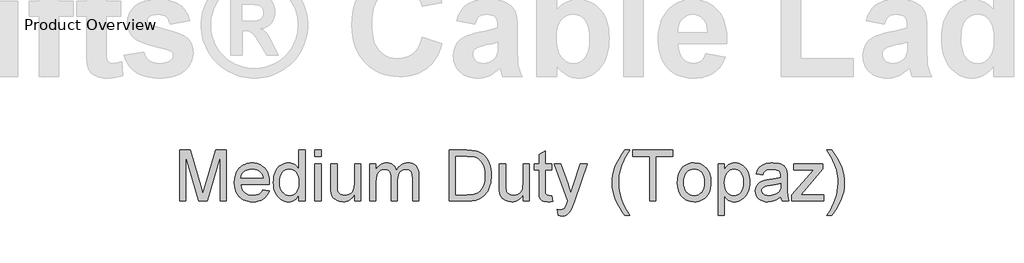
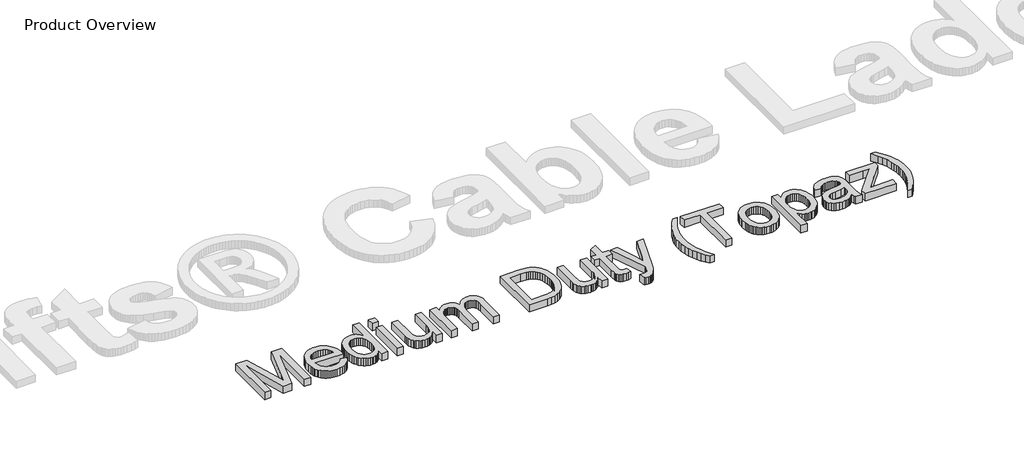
# One storey, part 11 of 12: 1 proxy.
"""IFC4 building model written with IfcOpenShell, lengths in millimetres."""

import ifcopenshell
import ifcopenshell.guid

model = None  # the IFC model being written
_history = None  # IfcOwnerHistory: only IFC2X3 demands one
_inside = {}  # id of a spatial element -> (the spatial element, [elements in it])
_under = {}  # id of a project, library or spatial element -> (it, [spatial elements below it])
_declared = {}  # id of a project -> (the project, [libraries it declares])
_typed = {}  # id of a type object -> (the type object, [elements of that type])
_made_of = {}  # id of a material, layer set ... -> (it, [elements and type objects made of it])


def new_model(schema):
    """Start an empty IFC model of exactly this schema.

    Asked for "IFC4X3", IfcOpenShell would pick the latest addendum, in which some entities
    have other attributes; the version numbers below select the first issue.
    IFC2X3 requires an IfcOwnerHistory on every rooted entity: one is made here for all.
    """
    global model, _history
    if schema == "IFC4X3":
        model = ifcopenshell.file(schema_version=(4, 3, 0, 0))
    else:
        model = ifcopenshell.file(schema=schema)
    _inside.clear()
    _under.clear()
    _declared.clear()
    _typed.clear()
    _made_of.clear()
    _history = None
    if model.schema == "IFC2X3":
        org = make("IfcOrganization", Name="unknown")
        user = make(
            "IfcPersonAndOrganization",
            ThePerson=make("IfcPerson", FamilyName="unknown"),
            TheOrganization=org,
        )
        app = make(
            "IfcApplication",
            ApplicationDeveloper=org,
            Version="unknown",
            ApplicationFullName="unknown",
            ApplicationIdentifier="unknown",
        )
        _history = make(
            "IfcOwnerHistory",
            OwningUser=user,
            OwningApplication=app,
            ChangeAction="ADDED",
            CreationDate=0,
        )
    return model


def make(cls, **values):
    """One entity of the class cls with the attributes given. An attribute that is None is left unset."""
    return model.create_entity(
        cls, **{name: value for name, value in values.items() if value is not None}
    )


def rooted(cls, **values):
    """An entity with a GlobalId (a new one), such as an element, a storey or a relation."""
    return make(cls, GlobalId=ifcopenshell.guid.new(), OwnerHistory=_history, **values)


def si_unit(unit_type, name, prefix=None):
    """IfcSIUnit, for example si_unit("LENGTHUNIT", "METRE", prefix="MILLI")."""
    return make("IfcSIUnit", UnitType=unit_type, Prefix=prefix, Name=name)


def assignment(units):
    """IfcUnitAssignment: the units of a project."""
    return None if units is None else make("IfcUnitAssignment", Units=units)


def point(xyz):
    """IfcCartesianPoint."""
    return None if xyz is None else make("IfcCartesianPoint", Coordinates=xyz)


def direction(xyz):
    """IfcDirection."""
    return None if xyz is None else make("IfcDirection", DirectionRatios=xyz)


def frame(location, z_axis=None, x_axis=None):
    """IfcAxis2Placement3D, a coordinate frame: its origin and axes. An axis left out is left unset."""
    return make(
        "IfcAxis2Placement3D",
        Location=point(location),
        Axis=direction(z_axis),
        RefDirection=direction(x_axis),
    )


def origin():
    """The frame at (0, 0, 0) with its axes left unset."""
    return frame((0.0, 0.0, 0.0))


def origin_with_axes():
    """The frame at (0, 0, 0) with the z axis (0, 0, 1) and the x axis (1, 0, 0) written out."""
    return frame((0.0, 0.0, 0.0), z_axis=(0.0, 0.0, 1.0), x_axis=(1.0, 0.0, 0.0))


def place(relative_to, where):
    """IfcLocalPlacement: puts the frame where relative to a parent placement (None: the world)."""
    return make(
        "IfcLocalPlacement", PlacementRelTo=relative_to, RelativePlacement=where
    )


def context(
    kind, dimensions, precision=None, world=None, true_north=None, identifier=None
):
    """IfcGeometricRepresentationContext, for example the 3D "Model" context."""
    return make(
        "IfcGeometricRepresentationContext",
        ContextIdentifier=identifier,
        ContextType=kind,
        CoordinateSpaceDimension=dimensions,
        Precision=precision,
        WorldCoordinateSystem=world,
        TrueNorth=true_north,
    )


def project(units=None, contexts=None):
    """IfcProject with its units and contexts."""
    return rooted(
        "IfcProject",
        Name="project",
        RepresentationContexts=contexts,
        UnitsInContext=assignment(units),
    )


def spatial(cls, under=None, at=None, **own):
    """A site, building, storey or space (cls), placed at a placement, below another one or the project."""
    s = rooted(cls, ObjectPlacement=at, **own)
    if under is not None:
        _under.setdefault(under.id(), (under, []))[1].append(s)
    return s


def polyline(points):
    """IfcPolyline through the points."""
    return make("IfcPolyline", Points=[point(p) for p in points])


def outline(outer, holes=None, kind="AREA"):
    """IfcArbitraryClosedProfileDef: a profile drawn as a closed curve; with holes, ...WithVoids."""
    if holes is None:
        return make("IfcArbitraryClosedProfileDef", ProfileType=kind, OuterCurve=outer)
    return make(
        "IfcArbitraryProfileDefWithVoids",
        ProfileType=kind,
        OuterCurve=outer,
        InnerCurves=holes,
    )


def extrude(swept, where, along, depth):
    """IfcExtrudedAreaSolid: the profile swept, set in the frame where, extruded along a direction by depth."""
    return make(
        "IfcExtrudedAreaSolid",
        SweptArea=swept,
        Position=where,
        ExtrudedDirection=direction(along),
        Depth=depth,
    )


def shape(context_of_items, identifier, shape_type, items):
    """IfcShapeRepresentation: the items that make up one representation, for example the "Body"."""
    return make(
        "IfcShapeRepresentation",
        ContextOfItems=context_of_items,
        RepresentationIdentifier=identifier,
        RepresentationType=shape_type,
        Items=items,
    )


def made_of(thing, what):
    """Note that an element or type object is made of a material, layer set ...; save() writes the relation."""
    if what is not None:
        _made_of.setdefault(what.id(), (what, []))[1].append(thing)
    return thing


def element(
    cls,
    number,
    at=None,
    inside=None,
    cuts=None,
    type_object=None,
    material=None,
    context=None,
    identifier="Body",
    shape_type=None,
    held_by="IfcProductDefinitionShape",
    body=None,
    shapes=None,
    **own,
):
    """One element of the class cls, such as IfcWall. Its Tag is "e" and its number.

    at: its placement. inside: the storey or other place that contains it. cuts: it is an
    opening in that element (IfcRelVoidsElement). A single representation is given by context,
    identifier, shape_type and body (its items); several are given by shapes. held_by: the class
    of the entity that holds the representations. save() writes the other relations.
    """
    e = rooted(cls, Tag="e%d" % number, ObjectPlacement=at, **own)
    if body is not None:
        shapes = [shape(context, identifier, shape_type, body)]
    if shapes is not None:
        e.Representation = make(held_by, Representations=shapes)
    if inside is not None:
        _inside.setdefault(inside.id(), (inside, []))[1].append(e)
    if cuts is not None:
        rooted(
            "IfcRelVoidsElement", RelatingBuildingElement=cuts, RelatedOpeningElement=e
        )
    if type_object is not None:
        _typed.setdefault(type_object.id(), (type_object, []))[1].append(e)
    return made_of(e, material)


def aggregate(whole, parts):
    """IfcRelAggregates: a whole, such as a stair, and the parts it consists of."""
    return rooted("IfcRelAggregates", RelatingObject=whole, RelatedObjects=parts)


def save(model, path):
    """Write the relations noted so far, then the file.

    IfcRelAggregates (storeys below a building ...), IfcRelContainedInSpatialStructure (elements
    in a storey), IfcRelDefinesByType, IfcRelAssociatesMaterial and IfcRelDeclares: one each for
    every whole, place, type object, material and project.
    """
    for whole, parts in _under.values():
        aggregate(whole, parts)
    for where, things in _inside.values():
        rooted(
            "IfcRelContainedInSpatialStructure",
            RelatedElements=things,
            RelatingStructure=where,
        )
    for kind, things in _typed.values():
        rooted("IfcRelDefinesByType", RelatedObjects=things, RelatingType=kind)
    for what, things in _made_of.values():
        rooted("IfcRelAssociatesMaterial", RelatedObjects=things, RelatingMaterial=what)
    for by, libraries in _declared.values():
        rooted("IfcRelDeclares", RelatingContext=by, RelatedDefinitions=libraries)
    model.write(path)


model = new_model("IFC4")

# Units and contexts
model_context = context("Model", 3, world=origin())
ifc_project = project(units=[si_unit("LENGTHUNIT", "METRE", prefix="MILLI")], contexts=[model_context])

# Site, building, storey
site = spatial("IfcSite", under=ifc_project)
building = spatial("IfcBuilding", under=site)
storey = spatial("IfcBuildingStorey", under=building, Name="Product Overview", Elevation=0.0)

# Proxy
placement = place(None, origin())
element("IfcBuildingElementProxy", 1, Name="1000mm", ObjectType="1000mm", at=placement, inside=storey, context=model_context, shape_type="SweptSolid", body=[
    extrude(outline(polyline([(-4886.9147151, -2802.9625714), (-4886.9147151, -1823.568632), (-4676.2589386, -1823.568632), (-4475.8848855, -2513.8787646), (-4435.4753211, -2658.0620032), (-4391.7182189, -2501.9232721), (-4194.6917037, -1823.568632), (-3984.0359272, -1823.568632), (-3984.0359272, -2802.9625714), (-4106.4601696, -2802.9625714), (-4106.4601696, -1945.9928744), (-4352.5042037, -2802.9625714), (-4518.4464386, -2802.9625714), (-4764.4904726, -1945.9928744), (-4764.4904726, -2802.9625714), (-4886.9147151, -2802.9625714)])), origin_with_axes(), (0.0, 0.0, 1.0), 150.0),
    extrude(outline(polyline([(-3281.5311923, -2588.7201471), (-3161.4980484, -2604.0231774), (-3179.9020346, -2652.0992013), (-3204.7470422, -2694.4664776), (-3236.0330715, -2731.1250063), (-3273.7601223, -2762.0747873), (-3317.5396411, -2786.6582686), (-3366.9830744, -2804.2178981), (-3422.0904223, -2814.7536758), (-3482.8616848, -2818.2656017), (-3521.8776871, -2816.7506166), (-3558.8238948, -2812.2056615), (-3593.7003078, -2804.6307362), (-3626.5069262, -2794.0258408), (-3657.24375, -2780.3909753), (-3685.9107792, -2763.7261397), (-3712.5080138, -2744.031334), (-3737.0354537, -2721.3065581), (-3759.0597124, -2695.8469634), (-3778.1474033, -2667.947701), (-3794.2985263, -2637.6087709), (-3807.5130815, -2604.8301732), (-3817.7910689, -2569.6119078), (-3825.1324885, -2531.9539747), (-3831.0056242, -2449.3191055), (-3825.072711, -2363.8821677), (-3817.6565696, -2324.9633038), (-3807.2739717, -2288.5775098), (-3793.9249172, -2254.7247858), (-3777.6094061, -2223.4051317), (-3758.3274385, -2194.6185476), (-3736.0790143, -2168.3650335), (-3711.4656443, -2144.9397405), (-3685.0888391, -2124.63782), (-3656.9485988, -2107.4592718), (-3627.0449234, -2093.404096), (-3595.3778128, -2082.4722926), (-3561.9472672, -2074.6638616), (-3526.7532863, -2069.978803), (-3489.7958704, -2068.4171168), (-3454.04708, -2069.9750669), (-3419.9683224, -2074.6489173), (-3387.5595977, -2082.4386678), (-3356.8209059, -2093.3443185), (-3327.7522469, -2107.3658695), (-3300.3536207, -2124.5033207), (-3274.6250274, -2144.7566721), (-3250.566467, -2168.1259236), (-3228.7943944, -2194.3196603), (-3209.9252649, -2223.046467), (-3193.9590784, -2254.3063436), (-3180.8958349, -2288.0992901), (-3170.7355343, -2324.4253066), (-3163.4781768, -2363.2843931), (-3157.6722908, -2448.6017759), (-3158.3896204, -2481.598935), (-3708.5813817, -2481.598935), (-3701.4902803, -2530.4520659), (-3687.3902714, -2573.2377844), (-3666.2813551, -2609.9560906), (-3638.1635314, -2640.6069843), (-3604.5910142, -2664.7720233), (-3567.1180176, -2682.0327655), (-3525.7445417, -2692.3892108), (-3480.4705863, -2695.8413593), (-3446.606654, -2694.2423121), (-3415.3131526, -2689.4451708), (-3386.590082, -2681.4499352), (-3360.4374423, -2670.2566055), (-3336.8552335, -2655.5662942), (-3315.8434556, -2637.080114), (-3297.4021085, -2614.798065), (-3281.5311923, -2588.7201471)]), holes=[polyline([(-3708.5813817, -2359.1746926), (-3280.0965333, -2359.1746926), (-3286.3881111, -2324.5336533), (-3296.6548903, -2294.4954786), (-3310.8968706, -2269.0601684), (-3329.1140522, -2248.2277229), (-3362.4997648, -2223.1211888), (-3400.488342, -2205.1879502), (-3443.0797837, -2194.428007), (-3490.2740901, -2190.8413593), (-3533.321335, -2193.7032053), (-3572.7968765, -2202.2887433), (-3608.7007147, -2216.5979732), (-3641.0328495, -2236.6308952), (-3668.1643452, -2261.4609586), (-3688.4662657, -2290.1616126), (-3701.9386113, -2322.7328572), (-3708.5813817, -2359.1746926)])]), origin_with_axes(), (0.0, 0.0, 1.0), 150.0),
    extrude(outline(polyline([(-2591.4601696, -2802.9625714), (-2591.4601696, -2687.4725146), (-2608.8068419, -2718.1271444), (-2628.0888095, -2744.6944902), (-2649.3060725, -2767.174552), (-2672.4586308, -2785.5673299), (-2697.5464844, -2799.8728238), (-2724.5696334, -2810.0910337), (-2753.5280777, -2816.2219597), (-2784.4218173, -2818.2656017), (-2824.8313817, -2815.3066173), (-2863.5671772, -2806.4296642), (-2900.6292037, -2791.6347423), (-2936.0174613, -2770.9218517), (-2968.6260669, -2744.9111835), (-2997.3491374, -2714.2229289), (-3022.1866729, -2678.8570878), (-3043.1386734, -2638.8136604), (-3059.7717522, -2594.8548092), (-3071.6525228, -2547.7426968), (-3078.7809852, -2497.4773234), (-3081.1571393, -2444.0586888), (-3078.9677898, -2391.6189102), (-3072.3997411, -2341.6598962), (-3061.4529934, -2294.1816469), (-3046.1275465, -2249.1841623), (-3026.4308727, -2207.9825465), (-3002.3704442, -2171.8919038), (-2973.946261, -2140.912234), (-2941.158323, -2115.0435373), (-2905.1648186, -2094.6444783), (-2867.1239362, -2080.0737219), (-2827.0356757, -2071.3312681), (-2784.900037, -2068.4171168), (-2754.0847553, -2070.5018558), (-2725.00302, -2076.7560728), (-2697.6548311, -2087.1797678), (-2672.0401886, -2101.7729407), (-2648.4430354, -2119.6987071), (-2627.1473145, -2140.1201826), (-2608.1530259, -2163.0373672), (-2591.4601696, -2188.4502608), (-2591.4601696, -1823.568632), (-2469.0359272, -1823.568632), (-2469.0359272, -2802.9625714), (-2591.4601696, -2802.9625714)]), holes=[polyline([(-2958.7328969, -2443.5804691), (-2955.2807484, -2502.9469612), (-2944.9243031, -2554.3182177), (-2927.6635609, -2597.6942386), (-2903.4985219, -2633.075024), (-2874.640952, -2660.5352957), (-2843.3026175, -2680.1497754), (-2809.4835183, -2691.9184633), (-2773.1836545, -2695.8413593), (-2736.7119304, -2692.0977957), (-2703.0945801, -2680.867105), (-2672.3316037, -2662.1492872), (-2644.4230011, -2635.9443422), (-2621.2517623, -2602.043049), (-2604.7008775, -2560.2361864), (-2594.7703466, -2510.5237545), (-2591.4601696, -2452.9057532), (-2594.830124, -2389.7359201), (-2604.9399873, -2335.5625951), (-2621.7897595, -2290.3857781), (-2645.3794404, -2254.2054691), (-2673.9007621, -2226.483671), (-2705.5454561, -2206.6823867), (-2740.3135225, -2194.8016161), (-2778.2049613, -2190.8413593), (-2815.2221547, -2194.6447003), (-2849.0412539, -2206.0547234), (-2879.6622589, -2225.0714285), (-2907.0851696, -2251.6948157), (-2929.6810503, -2286.5077152), (-2945.8209651, -2330.0929573), (-2955.5049139, -2382.4505419), (-2958.7328969, -2443.5804691)])]), origin_with_axes(), (0.0, 0.0, 1.0), 150.0),
    extrude(outline(polyline([(-2285.3995636, -2802.9625714), (-2285.3995636, -2083.7201471), (-2162.9753211, -2083.7201471), (-2162.9753211, -2802.9625714), (-2285.3995636, -2802.9625714)])), origin_with_axes(), (0.0, 0.0, 1.0), 150.0),
    extrude(outline(polyline([(-2285.3995636, -1945.9928744), (-2285.3995636, -1823.568632), (-2162.9753211, -1823.568632), (-2162.9753211, -1945.9928744), (-2285.3995636, -1945.9928744)])), origin_with_axes(), (0.0, 0.0, 1.0), 150.0),
    extrude(outline(polyline([(-1520.2480484, -2802.9625714), (-1520.2480484, -2679.3427797), (-1541.4839918, -2711.9028161), (-1564.5431478, -2740.1215143), (-1589.4255164, -2763.9988743), (-1616.1310976, -2783.5348962), (-1644.6598914, -2798.7295798), (-1675.0118978, -2809.5829253), (-1707.1871168, -2816.0949326), (-1741.1855484, -2818.2656017), (-1800.8135669, -2812.1683005), (-1829.0808343, -2804.5466741), (-1856.3169404, -2793.8763971), (-1902.8835834, -2766.3787646), (-1921.0110988, -2750.2986272), (-1935.7014101, -2732.6642759), (-1957.7891824, -2691.7167144), (-1972.165662, -2642.519863), (-1977.5456336, -2596.1325524), (-1979.3389575, -2528.7035752), (-1979.3389575, -2083.7201471), (-1856.9147151, -2083.7201471), (-1856.9147151, -2471.0781017), (-1855.0616137, -2548.5496926), (-1849.5023098, -2595.8934426), (-1842.1720985, -2617.9587983), (-1831.6587373, -2637.528445), (-1817.9622263, -2654.6023826), (-1801.0825654, -2669.1806111), (-1781.5278632, -2680.8446884), (-1759.8062279, -2689.1761722), (-1735.9176596, -2694.1750625), (-1709.8621583, -2695.8413593), (-1683.0295499, -2694.1377016), (-1657.0487705, -2689.0267286), (-1631.9198198, -2680.5084402), (-1607.642698, -2668.5828365), (-1585.5325092, -2653.720665), (-1566.9043576, -2636.3926732), (-1551.7582431, -2616.598861), (-1540.0941658, -2594.3392286), (-1531.4114895, -2568.1940611), (-1525.2095778, -2536.7436438), (-1520.2480484, -2457.92706), (-1520.2480484, -2083.7201471), (-1397.823806, -2083.7201471), (-1397.823806, -2802.9625714), (-1520.2480484, -2802.9625714)])), origin_with_axes(), (0.0, 0.0, 1.0), 150.0),
    extrude(outline(polyline([(-1229.4904726, -2802.9625714), (-1229.4904726, -2083.7201471), (-1107.0662302, -2083.7201471), (-1107.0662302, -2202.0795221), (-1089.9698761, -2173.4237012), (-1070.2433136, -2147.7119203), (-1047.8865427, -2124.9441794), (-1022.8995636, -2105.1204786), (-995.6858739, -2089.0627578), (-966.6489717, -2077.5929573), (-935.7888569, -2070.7110769), (-903.1055295, -2068.4171168), (-867.3735515, -2070.75591), (-835.0190001, -2077.7722897), (-806.0418753, -2089.4662557), (-780.4421772, -2105.8378081), (-758.2946275, -2126.4236716), (-739.673948, -2150.7605709), (-724.5801388, -2178.8485059), (-713.0131999, -2210.6874767), (-691.4858414, -2177.3428611), (-668.3893244, -2148.4441942), (-643.7236491, -2123.9914761), (-617.4888154, -2103.9847068), (-589.6848234, -2088.4238862), (-560.3116729, -2077.3090143), (-529.3693641, -2070.6400912), (-496.8578969, -2068.4171168), (-447.8478501, -2072.1158473), (-404.830494, -2083.2120387), (-367.8058284, -2101.705691), (-336.7738533, -2127.5968043), (-312.2426773, -2161.1842659), (-294.7204087, -2202.7669629), (-284.2070476, -2252.3448956), (-280.7025939, -2309.9180638), (-280.7025939, -2802.9625714), (-403.1268363, -2802.9625714), (-403.1268363, -2362.5222305), (-405.9662657, -2301.4595529), (-414.4845541, -2260.3027702), (-430.4451365, -2232.1176968), (-455.611448, -2209.9701471), (-487.9809438, -2195.6235562), (-525.5510787, -2190.8413593), (-560.2444233, -2193.9049542), (-591.8741729, -2203.095739), (-620.4403276, -2218.4137137), (-645.9428874, -2239.8588782), (-666.9173044, -2268.058896), (-681.8990309, -2303.6414303), (-690.8880667, -2346.6064812), (-693.884412, -2396.9540486), (-693.884412, -2802.9625714), (-816.3086545, -2802.9625714), (-816.3086545, -2348.8929691), (-818.0795618, -2311.8010539), (-823.3922837, -2279.670668), (-832.2468203, -2252.5018114), (-844.6431715, -2230.2944843), (-861.0745014, -2213.0337421), (-882.0339741, -2200.7046405), (-907.5215895, -2193.3071796), (-937.5373476, -2190.8413593), (-961.5828318, -2192.4852395), (-984.7017653, -2197.4168801), (-1006.8941481, -2205.6362811), (-1028.1599802, -2217.1434426), (-1047.5278779, -2231.8188095), (-1064.0264575, -2249.5428271), (-1077.6557189, -2270.3154951), (-1088.415662, -2294.1368138), (-1096.5752856, -2322.2770541), (-1102.4035882, -2356.0064871), (-1107.0662302, -2440.2329312), (-1107.0662302, -2802.9625714), (-1229.4904726, -2802.9625714)])), origin_with_axes(), (0.0, 0.0, 1.0), 150.0),
    extrude(outline(polyline([(300.8125577, -2802.9625714), (300.8125577, -1823.568632), (638.6747736, -1823.568632), (739.6389071, -1827.0955022), (813.4640728, -1837.676113), (854.0230809, -1849.3177738), (891.5334383, -1864.8748583), (925.9951453, -1884.3473666), (957.4082016, -1907.7352986), (993.7080655, -1942.7648915), (1025.1360662, -1982.3375714), (1051.6922037, -2026.4533384), (1073.3764781, -2075.1121926), (1090.2187781, -2127.8658029), (1102.2489923, -2184.2658384), (1109.4671209, -2244.3122991), (1111.8731637, -2308.005185), (1110.2442279, -2362.1411491), (1105.3574203, -2413.1238522), (1097.2127411, -2460.953294), (1085.8101902, -2505.6294748), (1056.0410141, -2584.3862811), (1038.376774, -2618.1829638), (1018.8594327, -2648.2584994), (976.0587698, -2698.6807887), (929.4323493, -2737.0878081), (875.901632, -2765.5717688), (812.3880785, -2786.224882), (738.7721339, -2798.778149), (654.9342433, -2802.9625714), (300.8125577, -2802.9625714)]), holes=[polyline([(423.2368001, -2680.538329), (639.8703228, -2680.538329), (729.4767385, -2676.1147968), (766.1651559, -2670.5853815), (797.443713, -2662.8442002), (848.7327755, -2641.5036462), (869.9836632, -2628.0985503), (888.3054554, -2612.8702418), (910.8938639, -2588.3241214), (930.8371197, -2559.8775217), (948.1352228, -2527.5304425), (962.7881732, -2491.2828839), (974.4522505, -2451.0601241), (982.7837343, -2406.7874412), (987.7826245, -2358.4648352), (989.4489213, -2306.0923062), (986.1835774, -2235.0169038), (976.3875458, -2172.6690108), (960.0608265, -2119.0486272), (937.2034194, -2074.1557532), (909.6684259, -2036.9741718), (879.3089473, -2006.4876661), (846.1249837, -1982.6962361), (810.1165349, -1965.599882), (779.0023659, -1957.0218162), (739.6986846, -1950.8946263), (636.5227849, -1945.9928744), (423.2368001, -1945.9928744), (423.2368001, -2680.538329)])]), origin_with_axes(), (0.0, 0.0, 1.0), 150.0),
    extrude(outline(polyline([(1723.9943758, -2802.9625714), (1723.9943758, -2679.3427797), (1702.7584324, -2711.9028161), (1679.6992764, -2740.1215143), (1654.8169078, -2763.9988743), (1628.1113266, -2783.5348962), (1599.5825328, -2798.7295798), (1569.2305264, -2809.5829253), (1537.0553074, -2816.0949326), (1503.0568758, -2818.2656017), (1443.4288574, -2812.1683005), (1415.16159, -2804.5466741), (1387.9254838, -2793.8763971), (1341.3588408, -2766.3787646), (1323.2313254, -2750.2986272), (1308.5410141, -2732.6642759), (1286.4532418, -2691.7167144), (1272.0767622, -2642.519863), (1266.6967906, -2596.1325524), (1264.9034667, -2528.7035752), (1264.9034667, -2083.7201471), (1387.3277092, -2083.7201471), (1387.3277092, -2471.0781017), (1389.1808105, -2548.5496926), (1394.7401145, -2595.8934426), (1402.0703258, -2617.9587983), (1412.5836869, -2637.528445), (1426.2801979, -2654.6023826), (1443.1598588, -2669.1806111), (1462.7145611, -2680.8446884), (1484.4361964, -2689.1761722), (1508.3247647, -2694.1750625), (1534.380266, -2695.8413593), (1561.2128743, -2694.1377016), (1587.1936538, -2689.0267286), (1612.3226044, -2680.5084402), (1636.5997262, -2668.5828365), (1658.709915, -2653.720665), (1677.3380667, -2636.3926732), (1692.4841811, -2616.598861), (1704.1482584, -2594.3392286), (1712.8309348, -2568.1940611), (1719.0328465, -2536.7436438), (1723.9943758, -2457.92706), (1723.9943758, -2083.7201471), (1846.4186183, -2083.7201471), (1846.4186183, -2802.9625714), (1723.9943758, -2802.9625714)])), origin_with_axes(), (0.0, 0.0, 1.0), 150.0),
    extrude(outline(polyline([(2274.9034667, -2700.8626661), (2290.2064971, -2806.5492191), (2241.7269753, -2815.336506), (2198.6274251, -2818.2656017), (2139.8661798, -2813.1845174), (2116.0896943, -2806.833162), (2096.0493001, -2797.9412646), (2065.0845747, -2774.4487219), (2044.8797925, -2744.6197683), (2038.3939379, -2723.5631573), (2033.7611846, -2693.3904833), (2030.0549819, -2605.6969464), (2030.0549819, -2206.1443896), (1938.2368001, -2206.1443896), (1938.2368001, -2083.7201471), (2030.0549819, -2083.7201471), (2030.0549819, -1908.9308479), (2152.4792243, -1836.9587835), (2152.4792243, -2083.7201471), (2274.9034667, -2083.7201471), (2274.9034667, -2206.1443896), (2152.4792243, -2206.1443896), (2152.4792243, -2602.1102986), (2154.0932158, -2642.4003081), (2158.9351902, -2665.2352986), (2167.3937011, -2677.8782319), (2179.857302, -2687.5920695), (2197.521542, -2693.7790368), (2221.5819705, -2695.8413593), (2274.9034667, -2700.8626661)])), origin_with_axes(), (0.0, 0.0, 1.0), 150.0),
    extrude(outline(polyline([(2397.3277092, -3078.4171168), (2382.0246789, -2960.5359615), (2415.3805027, -2968.6059189), (2444.1932395, -2971.2959047), (2476.8915113, -2967.9184781), (2502.2969327, -2957.7861983), (2522.0832726, -2941.6163948), (2537.9243001, -2920.1263971), (2551.4340065, -2888.5041197), (2571.3996789, -2829.9819843), (2580.9640728, -2800.332363), (2320.8125577, -2083.7201471), (2449.9318758, -2083.7201471), (2587.8982584, -2483.0335941), (2613.3036798, -2560.9834047), (2635.959338, -2642.7589729), (2684.0204175, -2501.6841623), (2825.8125577, -2083.7201471), (2953.9754364, -2083.7201471), (2703.6274251, -2820.1784805), (2666.4458436, -2918.0939634), (2638.5895463, -2979.9038593), (2605.2934999, -3030.8940344), (2586.9866521, -3050.5159864), (2567.5739213, -3066.2225146), (2546.6368652, -3078.2527288), (2523.7570416, -3086.845739), (2498.9344504, -3092.0015451), (2472.1690917, -3093.7201471), (2436.7210567, -3089.8943896), (2397.3277092, -3078.4171168)])), origin_with_axes(), (0.0, 0.0, 1.0), 150.0),
    extrude(outline(polyline([(3682.7822546, -3078.4171168), (3633.3612378, -3014.4701767), (3587.9154222, -2945.2927087), (3546.4448079, -2870.8847127), (3508.9493948, -2791.2461888), (3477.8800588, -2708.2451826), (3455.687676, -2623.7497399), (3442.3722463, -2537.7598607), (3437.9337698, -2450.2755449), (3441.2514189, -2373.3867842), (3451.2043664, -2298.1419038), (3467.7926121, -2224.5409035), (3491.0161561, -2152.5837835), (3526.3147475, -2070.060997), (3570.0419611, -1987.717543), (3622.1977968, -1905.5534213), (3682.7822546, -1823.568632), (3774.6004364, -1823.568632), (3702.5685946, -1939.9553507), (3660.066819, -2017.4867191), (3620.9723588, -2109.5440108), (3591.2031827, -2205.42706), (3577.7084206, -2266.5943481), (3568.0693048, -2327.9110799), (3562.2858354, -2389.3772553), (3560.3580122, -2450.9928744), (3563.7055501, -2529.47321), (3573.7481637, -2607.9386012), (3590.4858531, -2686.3890481), (3613.9186183, -2764.8245505), (3644.0464592, -2843.2451087), (3680.8693758, -2921.6507224), (3724.3873683, -3000.0413918), (3774.6004364, -3078.4171168), (3682.7822546, -3078.4171168)])), origin_with_axes(), (0.0, 0.0, 1.0), 150.0),
    extrude(outline(polyline([(4157.176194, -2802.9625714), (4157.176194, -1945.9928744), (3835.8125577, -1945.9928744), (3835.8125577, -1823.568632), (4600.9640728, -1823.568632), (4600.9640728, -1945.9928744), (4279.6004364, -1945.9928744), (4279.6004364, -2802.9625714), (4157.176194, -2802.9625714)])), origin_with_axes(), (0.0, 0.0, 1.0), 150.0),
    extrude(outline(polyline([(4692.7822546, -2443.3413593), (4694.4373431, -2395.1569887), (4699.4026086, -2350.1931289), (4707.678051, -2308.4497799), (4719.2636703, -2269.9269416), (4734.1594667, -2234.6246142), (4752.36544, -2202.5427975), (4773.8815903, -2173.6814915), (4798.7079175, -2148.0406964), (4845.3642267, -2113.2053803), (4896.8625103, -2088.3230117), (4953.2027684, -2073.3935906), (5014.3850008, -2068.4171168), (5081.9260609, -2074.4770571), (5113.2699995, -2082.0519823), (5142.9962106, -2092.6568777), (5171.1046941, -2106.2917432), (5197.5954501, -2122.9565788), (5222.4684784, -2142.6513846), (5245.7237792, -2165.3761604), (5266.767314, -2190.7722416), (5285.005044, -2218.4809633), (5300.4369695, -2248.5023256), (5313.0630903, -2280.8363285), (5322.8834065, -2315.4829719), (5329.8979181, -2352.4422559), (5335.5095274, -2433.2987456), (5333.0287627, -2498.8297885), (5325.5864686, -2556.9783147), (5313.1826453, -2607.7443245), (5295.8172925, -2651.1278176), (5273.7071037, -2688.6008142), (5247.0687721, -2721.6353342), (5215.9022978, -2750.2313776), (5180.2076808, -2774.3889445), (5141.3747469, -2793.584982), (5100.7933223, -2807.2964374), (5058.463407, -2815.5233106), (5014.3850008, -2818.2656017), (4945.8576127, -2812.228078), (4914.1774258, -2804.6811734), (4884.2195771, -2794.115507), (4855.9840664, -2780.5310787), (4829.470894, -2763.9278886), (4804.6800596, -2744.3059367), (4781.6115633, -2721.6652229), (4760.7921941, -2696.1850797), (4742.7487408, -2668.0448394), (4727.4812033, -2637.244502), (4714.9895818, -2603.7840676), (4705.2738762, -2567.6635361), (4698.3340864, -2528.8829076), (4692.7822546, -2443.3413593)]), holes=[polyline([(4815.2064971, -2443.1022494), (4818.7483117, -2502.4836858), (4829.3737556, -2553.8997754), (4847.0828287, -2597.3505182), (4871.8755311, -2632.8359142), (4902.0332608, -2660.4007964), (4935.8374156, -2680.089998), (4973.2879956, -2691.9035189), (5014.3850008, -2695.8413593), (5055.2727849, -2691.8811024), (5092.5739213, -2680.0003318), (5126.2884099, -2660.1990475), (5156.4162508, -2632.4772494), (5181.2089533, -2596.6406609), (5198.9180264, -2552.4950051), (5209.5434703, -2500.0402821), (5213.0852849, -2439.2764918), (5209.5210538, -2381.7780455), (5198.8283602, -2331.7069487), (5181.0072043, -2289.0632017), (5156.0575861, -2253.8468043), (5125.8176624, -2226.2819221), (5092.1255903, -2206.5927205), (5054.9813698, -2194.7791996), (5014.3850008, -2190.8413593), (4973.2879956, -2194.7642552), (4935.8374156, -2206.5329431), (4902.0332608, -2226.1474228), (4871.8755311, -2253.6076945), (4847.0828287, -2288.9884799), (4829.3737556, -2332.3645008), (4818.7483117, -2383.7357573), (4815.2064971, -2443.1022494)])]), origin_with_axes(), (0.0, 0.0, 1.0), 150.0),
    extrude(outline(polyline([(5473.2368001, -3078.4171168), (5473.2368001, -2083.7201471), (5595.6610425, -2083.7201471), (5595.6610425, -2203.7532911), (5615.0289402, -2172.0338752), (5635.5923872, -2144.5437148), (5657.3513834, -2121.2828099), (5680.3059289, -2102.2511604), (5705.1135757, -2087.4487663), (5732.4318758, -2076.8756277), (5762.2608294, -2070.5317446), (5794.6004364, -2068.4171168), (5837.2964888, -2071.3761012), (5877.3922215, -2080.2530543), (5914.8876346, -2095.0479762), (5949.7827281, -2115.7608668), (5981.3153394, -2141.853729), (6008.7233058, -2172.7885657), (6032.0066273, -2208.5653768), (6051.1653039, -2249.1841623), (6066.1246138, -2293.2550962), (6076.8098351, -2339.3883526), (6083.2209679, -2387.5839315), (6085.3580122, -2437.8418327), (6082.9444972, -2491.574299), (6075.7039521, -2542.5420576), (6063.6363769, -2590.7451087), (6046.7417717, -2636.1834521), (6025.251774, -2677.6690108), (5999.3980217, -2714.0137077), (5969.1805146, -2745.217543), (5934.5992527, -2771.2805165), (5897.3504216, -2791.8364912), (5859.1302068, -2806.5193304), (5819.9386082, -2815.3290339), (5779.7756258, -2818.2656017), (5750.8806951, -2816.3004176), (5723.4951453, -2810.4048654), (5697.6189763, -2800.5789451), (5673.2521883, -2786.8226566), (5630.2423043, -2751.2251779), (5595.6610425, -2707.318632), (5595.6610425, -3078.4171168), (5473.2368001, -3078.4171168)]), holes=[polyline([(5595.6610425, -2449.0799956), (5598.9712195, -2508.0803507), (5608.9017504, -2558.8314161), (5625.4526352, -2601.3331916), (5648.6238739, -2635.5856774), (5676.5175322, -2661.9475382), (5707.2356756, -2680.7774388), (5740.778304, -2692.0753791), (5777.1454175, -2695.8413593), (5814.0355838, -2691.9408799), (5848.1909312, -2680.2394416), (5879.6114598, -2660.7370446), (5908.2971694, -2633.4336888), (5932.2006821, -2597.9408207), (5949.2746197, -2553.8698867), (5959.5189823, -2501.220887), (5962.9337698, -2439.9938214), (5959.6011763, -2381.5015747), (5949.6033957, -2330.8401755), (5932.9404282, -2288.0096239), (5909.6122736, -2253.0099199), (5881.6513657, -2225.8111746), (5851.0901382, -2206.3834994), (5817.928591, -2194.7268943), (5782.1667243, -2190.8413593), (5746.5169404, -2194.9734763), (5712.9743119, -2207.3698275), (5681.538839, -2228.0304129), (5652.2105217, -2256.9552324), (5627.4701245, -2293.7557325), (5609.7984123, -2338.0433597), (5599.195385, -2389.8181141), (5595.6610425, -2449.0799956)])]), origin_with_axes(), (0.0, 0.0, 1.0), 150.0),
    extrude(outline(polyline([(6682.176194, -2711.1443896), (6653.146764, -2738.3879679), (6623.6839473, -2761.2976803), (6593.7877441, -2779.8735266), (6563.4581542, -2794.115507), (6532.3514574, -2804.6811734), (6500.1239331, -2812.228078), (6432.3064024, -2818.2656017), (6377.7968291, -2814.6341209), (6329.9972759, -2803.7396784), (6288.9077429, -2785.5822743), (6254.52823, -2760.1619085), (6227.38179, -2729.0925726), (6207.9914757, -2693.9882579), (6196.3572872, -2654.8489646), (6192.4792243, -2611.6746926), (6198.3374156, -2560.9236272), (6215.9119895, -2514.835204), (6243.0210685, -2475.382079), (6277.4827755, -2444.5369085), (6317.982006, -2421.2236983), (6363.2036561, -2404.366454), (6407.2596457, -2394.9813924), (6469.129319, -2385.9549956), (6594.3033247, -2366.5870979), (6642.6334028, -2355.6478223), (6681.4588645, -2343.8716623), (6682.176194, -2316.6131396), (6680.0690385, -2286.9336296), (6673.7475719, -2261.9765392), (6663.2117942, -2241.7418683), (6648.4617054, -2226.2296168), (6622.9666178, -2210.7472541), (6591.9122262, -2199.6884236), (6555.2985307, -2193.0531254), (6513.1255311, -2190.8413593), (6473.911516, -2192.3133793), (6440.1970274, -2196.7294393), (6411.9820652, -2204.0895393), (6389.2666296, -2214.3936793), (6370.6011171, -2228.4488551), (6354.5359241, -2247.0620624), (6341.0710508, -2270.2333011), (6330.2064971, -2297.9625714), (6207.7822546, -2282.6595411), (6217.1000665, -2247.3908384), (6229.0331424, -2215.7087835), (6243.5814823, -2187.6133763), (6260.7450861, -2163.1046168), (6281.2636999, -2141.689341), (6305.87707, -2122.8743848), (6334.5851962, -2106.6597482), (6367.3880785, -2093.0454312), (6403.6206927, -2082.2705437), (6442.6180146, -2074.5741954), (6484.380044, -2069.9563865), (6528.9067811, -2068.4171168), (6611.6686775, -2073.8568659), (6646.6160762, -2080.6565522), (6677.2744421, -2090.176113), (6726.740292, -2114.7147612), (6745.8018303, -2129.0688243), (6761.082444, -2144.8127134), (6783.8576571, -2182.0241836), (6798.6226902, -2227.9033858), (6803.1059999, -2270.225829), (6804.6004364, -2335.0245979), (6804.6004364, -2487.3375714), (6806.1546505, -2620.0136486), (6810.8172925, -2700.0257816), (6820.0230217, -2752.6000595), (6835.2064971, -2802.9625714), (6712.7822546, -2802.9625714), (6693.1752471, -2760.4010183), (6682.176194, -2711.1443896)]), holes=[polyline([(6682.176194, -2466.2959047), (6599.9224061, -2486.6800193), (6484.6714592, -2503.8361509), (6421.1579057, -2513.2212125), (6379.3435709, -2523.6822683), (6351.9356045, -2537.2517522), (6331.6411561, -2555.9620979), (6319.0878891, -2578.3786462), (6314.9034667, -2603.066738), (6317.1824825, -2622.0909154), (6324.0195297, -2639.4712125), (6335.4146084, -2655.2076294), (6351.3677186, -2669.3001661), (6371.7294167, -2680.9119381), (6396.3502589, -2689.206061), (6425.2302453, -2694.1825347), (6458.3693758, -2695.8413593), (6492.2034194, -2694.0106745), (6524.1245842, -2688.5186201), (6554.1328702, -2679.3651963), (6582.2282774, -2666.5504028), (6607.5739213, -2651.1352898), (6629.3329175, -2634.1809071), (6647.505266, -2615.6872547), (6662.0909667, -2595.6543327), (6670.564422, -2577.7210941), (6676.61689, -2555.9620979), (6681.4588645, -2500.9668327), (6682.176194, -2466.2959047)])]), origin_with_axes(), (0.0, 0.0, 1.0), 150.0),
    extrude(outline(polyline([(6896.4186183, -2802.9625714), (6896.4186183, -2687.7116244), (7318.9257205, -2206.1443896), (7193.8712698, -2206.1443896), (6927.0246789, -2206.1443896), (6927.0246789, -2083.7201471), (7493.2368001, -2083.7201471), (7493.2368001, -2187.7329312), (7118.5516675, -2615.0222305), (7061.1653039, -2680.538329), (7202.7183342, -2680.538329), (7508.5398304, -2680.538329), (7508.5398304, -2802.9625714), (6896.4186183, -2802.9625714)])), origin_with_axes(), (0.0, 0.0, 1.0), 150.0),
    extrude(outline(polyline([(7661.5701334, -3078.4171168), (7569.7519516, -3078.4171168), (7619.9650198, -3000.0413918), (7663.4830122, -2921.6507224), (7700.3059289, -2843.2451087), (7730.4337698, -2764.8245505), (7753.8665349, -2686.3890481), (7770.6042243, -2607.9386012), (7780.646838, -2529.47321), (7783.9943758, -2450.9928744), (7782.0665527, -2389.7807532), (7776.2830832, -2328.8077418), (7766.6439675, -2268.0738403), (7753.1492054, -2207.5790486), (7723.9180264, -2111.516667), (7685.0028986, -2019.3995979), (7642.3217906, -1941.0313451), (7569.7519516, -1823.568632), (7661.5701334, -1823.568632), (7722.1545913, -1905.5534213), (7774.310427, -1987.717543), (7818.0376405, -2070.060997), (7853.3362319, -2152.5837835), (7876.5597759, -2224.5409035), (7893.1480217, -2298.1419038), (7903.1009691, -2373.3867842), (7906.4186183, -2450.2755449), (7901.9577252, -2537.7598607), (7888.5750458, -2623.7497399), (7866.2705803, -2708.2451826), (7835.0443285, -2791.2461888), (7797.4368326, -2870.8847127), (7755.9886348, -2945.2927087), (7710.6997351, -3014.4701767), (7661.5701334, -3078.4171168)])), origin_with_axes(), (0.0, 0.0, 1.0), 150.0),
])

save(model, "model.ifc")
